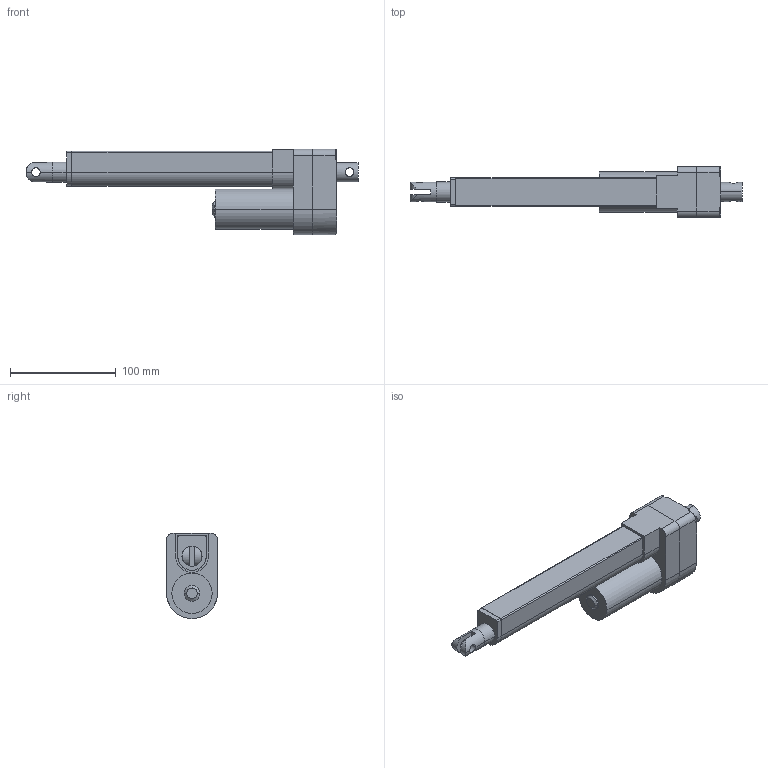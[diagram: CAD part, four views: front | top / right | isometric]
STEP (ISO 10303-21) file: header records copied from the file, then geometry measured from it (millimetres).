
FILE_DESCRIPTION((''),'2;1');
FILE_NAME('LAS3-S100_ASM','2007-07-11T',('amyliao'),(''),'PRO/ENGINEER BY PARAMETRIC TECHNOLOGY CORPORATION, 2003210','PRO/ENGINEER BY PARAMETRIC TECHNOLOGY CORPORATION, 2003210','');
FILE_SCHEMA(('CONFIG_CONTROL_DESIGN'));
Length unit declared in the file: millimetre
Products named in the file (8): 001; 002; LAS-MOTOR; OUT-TUB; 1; LAS-IN-TUB; LAS-IN-PLUG; LAS3-S100_ASM
Assembly tree (7 placements, depth 2):
  LAS3-S100_ASM
    001
    002
    LAS-MOTOR
    OUT-TUB
    1
    LAS-IN-TUB
    LAS-IN-PLUG
Bounding box: 313.35 x 48 x 80.5 mm (x, y, z)
Volume: 227619.3 mm3; surface area: 108021.2 mm2
Topology: 7 solids, 7 shells, 157 faces, 408 edges, 270 vertices
Faces by surface type: cylinder 79, plane 76, cone 2
Entity records: 5300 total; most frequent: CARTESIAN_POINT 1062, DIRECTION 894, ORIENTED_EDGE 816, EDGE_CURVE 408, AXIS2_PLACEMENT_3D 326, VERTEX_POINT 270, VECTOR 242, LINE 242
